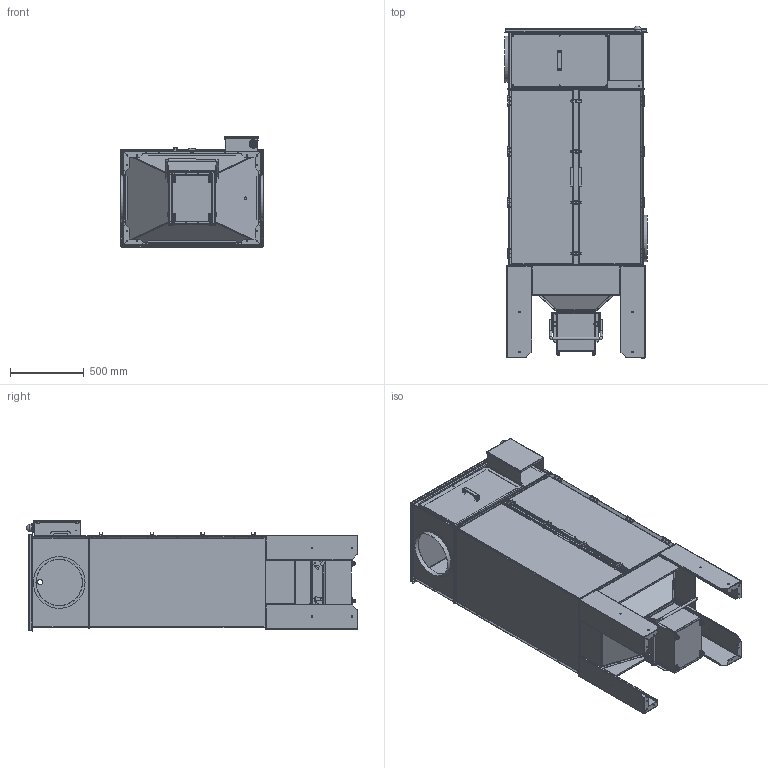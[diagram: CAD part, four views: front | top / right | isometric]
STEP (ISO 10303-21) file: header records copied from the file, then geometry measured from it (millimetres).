
FILE_DESCRIPTION(/* description */ (''),/* implementation_level */ '2;1');
FILE_NAME(/* name */ '15-492 Geofilter GFB2 W3 3-1 v17.step',/* time_stamp */ '2023-11-29T09:09:02+01:00',/* author */ (''),/* organization */ (''),/* preprocessor_version */ 'ST-DEVELOPER v20',/* originating_system */ 'Autodesk Translation Framework v12.14.0.127',/* authorisation */ '');
FILE_SCHEMA (('AUTOMOTIVE_DESIGN { 1 0 10303 214 3 1 1 }'));
Products named in the file (2): (Unsaved); Component10
Assembly tree (1 placements, depth 2):
  (Unsaved)
    Component10
Bounding box: 964.82 x 2246.67 x 747.7 mm (x, y, z)
Volume: 16220577.8 mm3; surface area: 18169719.8 mm2
Topology: 1 solids, 1 shells, 5238 faces, 14910 edges, 9697 vertices
Faces by surface type: plane 3477, cylinder 1429, bspline 147, cone 114, torus 68, sphere 3
Full cylindrical faces by diameter (mm): 1 x1, 2.729 x2, 3 x12, 3.3 x10, 4.5 x6, 5 x391, 5.1 x48, 5.554 x8, 6 x32, 7 x13, 8 x12, 8.6 x8, 9 x17, 10 x8, 11 x2, 12 x4, 17 x5, 18 x4, 20 x8, 21 x8, 26.6 x4, 30.611 x1, 36 x1, 37 x2, 38 x1, 55 x1, 312.2 x2, 314 x2, 350 x2
Entity records: 183178 total; most frequent: CARTESIAN_POINT 44074, ORIENTED_EDGE 29816, DIRECTION 28377, EDGE_CURVE 14908, VERTEX_POINT 9697, AXIS2_PLACEMENT_3D 9574, LINE 9229, VECTOR 9229
